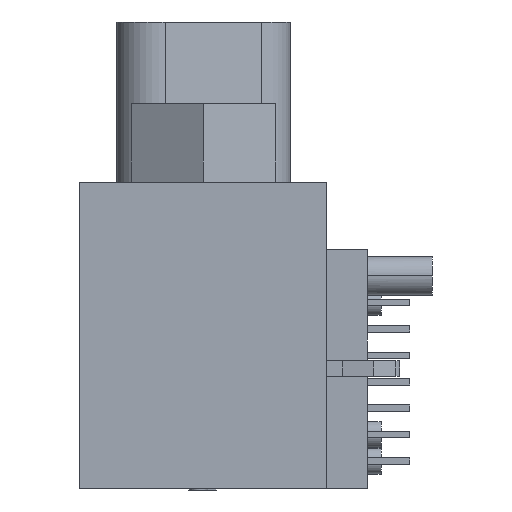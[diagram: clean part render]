
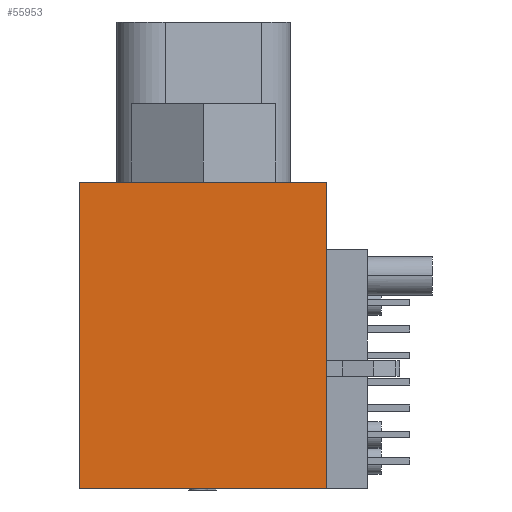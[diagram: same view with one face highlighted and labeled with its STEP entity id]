
A CAD part, left-side view. The second image highlights one B-rep face of the part: STEP entity #55953.
In plain terms, the highlighted planar face has unit normal (-1, 0, 0).
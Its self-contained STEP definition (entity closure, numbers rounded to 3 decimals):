
#2122=DIRECTION('',(0.,1.,0.));
#2123=VECTOR('',#2122,9.5);
#2124=CARTESIAN_POINT('',(-43.65,-4.75,-17.9));
#2125=LINE('',#2124,#2123);
#13078=DIRECTION('',(0.,0.,-1.));
#13079=VECTOR('',#13078,11.75);
#13080=CARTESIAN_POINT('',(-43.65,-4.75,-6.15));
#13081=LINE('',#13080,#13079);
#13082=DIRECTION('',(0.,0.,1.));
#13083=VECTOR('',#13082,11.75);
#13084=CARTESIAN_POINT('',(-43.65,4.75,-17.9));
#13085=LINE('',#13084,#13083);
#13086=DIRECTION('',(0.,-1.,0.));
#13087=VECTOR('',#13086,9.5);
#13088=CARTESIAN_POINT('',(-43.65,4.75,-6.15));
#13089=LINE('',#13088,#13087);
#27387=CARTESIAN_POINT('',(-43.65,4.75,-6.15));
#27388=CARTESIAN_POINT('',(-43.65,-4.75,-6.15));
#27389=VERTEX_POINT('',#27387);
#27390=VERTEX_POINT('',#27388);
#27443=CARTESIAN_POINT('',(-43.65,-4.75,-17.9));
#27444=CARTESIAN_POINT('',(-43.65,4.75,-17.9));
#27445=VERTEX_POINT('',#27443);
#27446=VERTEX_POINT('',#27444);
#55942=CARTESIAN_POINT('',(-43.65,4.75,-6.15));
#55943=DIRECTION('',(-1.,0.,0.));
#55944=DIRECTION('',(0.,0.,-1.));
#55945=AXIS2_PLACEMENT_3D('',#55942,#55943,#55944);
#55946=PLANE('',#55945);
#55947=ORIENTED_EDGE('',*,*,#38028,.T.);
#55948=ORIENTED_EDGE('',*,*,#38258,.T.);
#55949=ORIENTED_EDGE('',*,*,#36878,.T.);
#55950=ORIENTED_EDGE('',*,*,#36331,.T.);
#55951=EDGE_LOOP('',(#55947,#55948,#55949,#55950));
#55952=FACE_OUTER_BOUND('',#55951,.F.);
#55953=ADVANCED_FACE('',(#55952),#55946,.T.);
#36331=EDGE_CURVE('',#27389,#27390,#13089,.T.);
#36878=EDGE_CURVE('',#27446,#27389,#13085,.T.);
#38028=EDGE_CURVE('',#27390,#27445,#13081,.T.);
#38258=EDGE_CURVE('',#27445,#27446,#2125,.T.);
